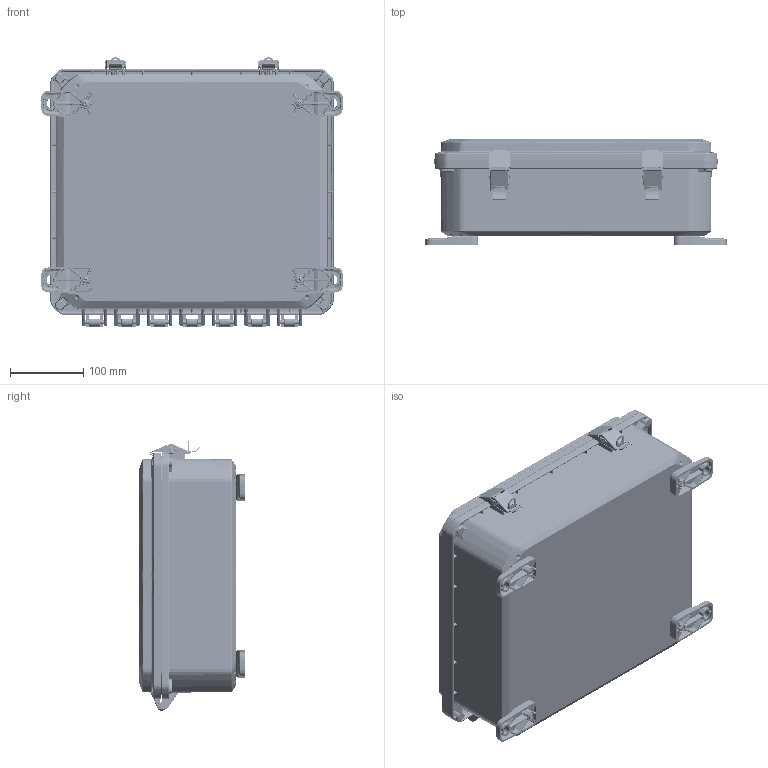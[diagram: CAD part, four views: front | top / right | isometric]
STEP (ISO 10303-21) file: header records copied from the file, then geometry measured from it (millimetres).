
FILE_DESCRIPTION (( 'STEP AP214' ), '1' );
FILE_NAME ('ZH-141204-05.STEP', '2024-10-25T19:21:53', ( '' ), ( '' ), 'SwSTEP 2.0', 'SolidWorks 2024', '' );
FILE_SCHEMA (( 'AUTOMOTIVE_DESIGN' ));
Length unit declared in the file: inch
Products named in the file (17): ZH-01L2; Z_-14124BI_ZH-14124BI-01; Z_-14124B_ZH-14124B-01; ZH-01L5; ZH-01L3; Z_-14121C_ZH-14121C-02; SCREWS-046_SCREWS-046; ZH-1412G; Z_-14121CG_ZH-14121CG-02; ZH-95P_DEFAULT; ZH-01L; ZH-01L4; ZH-01F_ZH-01F-01; ZH-01L1; ZH-141204-05; INSERTS-4; LABEL-104
Assembly tree (37 placements, depth 3):
  ZH-141204-05
    Z_-14124BI_ZH-14124BI-01
      Z_-14124B_ZH-14124B-01
      INSERTS-4  x12
      LABEL-104
    Z_-14121CG_ZH-14121CG-02
      Z_-14121C_ZH-14121C-02
      ZH-1412G
    ZH-95P_DEFAULT  x4
    ZH-01L  x2
      ZH-01L1
      ZH-01L2
      ZH-01L3
      ZH-01L4
      ZH-01L5
    ZH-01F_ZH-01F-01  x4
    SCREWS-046_SCREWS-046  x4
Bounding box: 412.75 x 145.34 x 368.26 mm (x, y, z)
Volume: 2161024.1 mm3; surface area: 1048002.4 mm2
Topology: 42 solids, 42 shells, 10177 faces, 24855 edges, 14632 vertices
Faces by surface type: bspline 3367, cylinder 2214, plane 2072, cone 1392, torus 1052, sphere 80
Entity records: 314974 total; most frequent: CARTESIAN_POINT 176881, ORIENTED_EDGE 32112, DIRECTION 25162, EDGE_CURVE 16056, AXIS2_PLACEMENT_3D 10277, VERTEX_POINT 9418, EDGE_LOOP 6988, ADVANCED_FACE 6794
